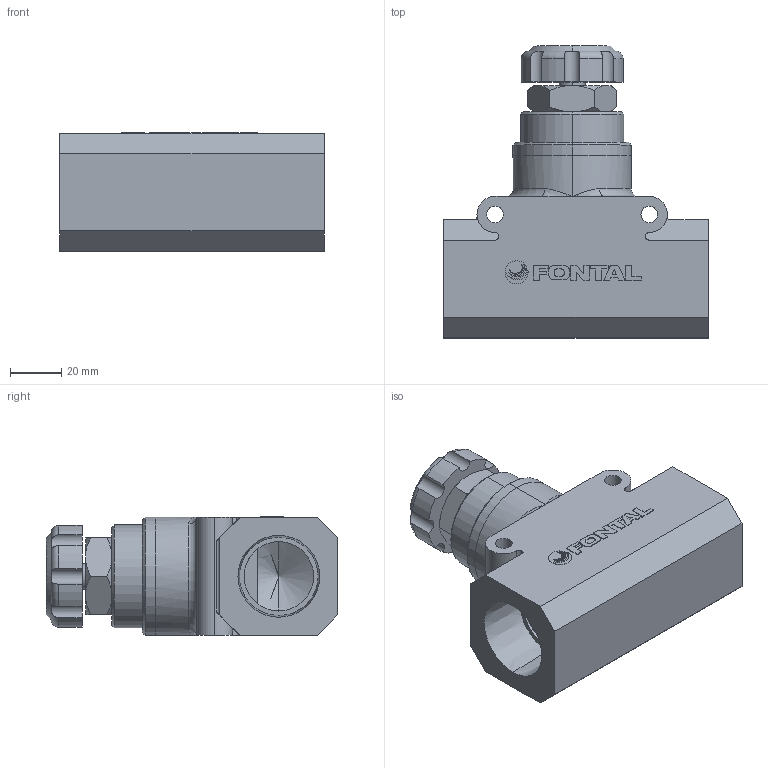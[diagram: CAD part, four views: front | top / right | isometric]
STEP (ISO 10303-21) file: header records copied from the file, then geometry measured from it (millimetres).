
FILE_DESCRIPTION (( 'STEP AP203' ), '1' );
FILE_NAME ('SP-20-8.STEP', '2016-01-14T20:21:49', ( '' ), ( '' ), 'SwSTEP 2.0', 'SolidWorks 2014', '' );
FILE_SCHEMA (( 'CONFIG_CONTROL_DESIGN' ));
Length unit declared in the file: millimetre
Products named in the file (7): SP-20-3; SP-20-5; ZH-20-MARK; SP-20-1-2; SP-20-4; SP-20-8; SP-20-2
Assembly tree (6 placements, depth 2):
  SP-20-8
    SP-20-2
    SP-20-3
    SP-20-4
    SP-20-5
    ZH-20-MARK
    SP-20-1-2
Bounding box: 103 x 113.5 x 46.25 mm (x, y, z)
Volume: 265144.1 mm3; surface area: 46083.2 mm2
Topology: 12 solids, 12 shells, 220 faces, 556 edges, 357 vertices
Faces by surface type: plane 104, cylinder 68, cone 26, bspline 12, torus 10
Entity records: 7998 total; most frequent: CARTESIAN_POINT 2066, ORIENTED_EDGE 1096, DIRECTION 1059, EDGE_CURVE 548, AXIS2_PLACEMENT_3D 374, VERTEX_POINT 357, VECTOR 311, LINE 311
